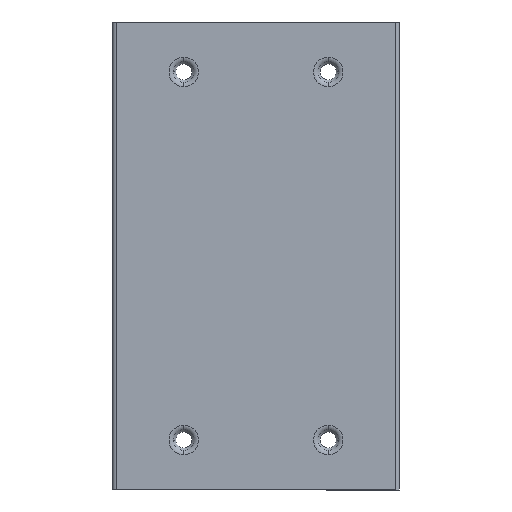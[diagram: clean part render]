
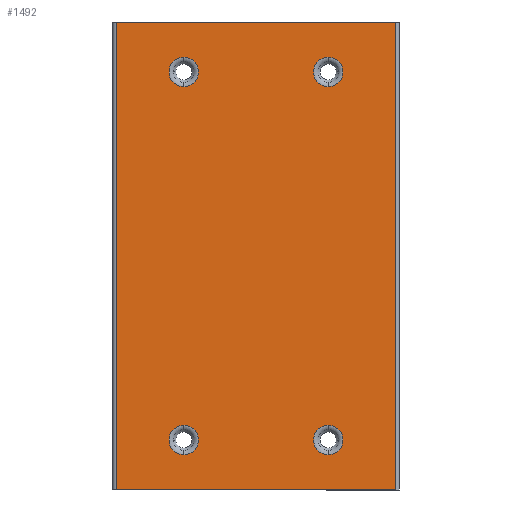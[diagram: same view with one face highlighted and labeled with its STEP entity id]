
A CAD part, front view. The second image highlights one B-rep face of the part: STEP entity #1492.
In plain terms, the highlighted planar face has unit normal (0, -1, 0).
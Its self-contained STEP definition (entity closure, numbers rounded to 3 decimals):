
#2 = VECTOR ( 'NONE', #2551, 1000. ) ;
#16 = AXIS2_PLACEMENT_3D ( 'NONE', #2356, #2397, #2396 ) ;
#30 = AXIS2_PLACEMENT_3D ( 'NONE', #2431, #2432, #2460 ) ;
#40 = AXIS2_PLACEMENT_3D ( 'NONE', #2552, #2553, #2554 ) ;
#77 = AXIS2_PLACEMENT_3D ( 'NONE', #763, #1101, #954 ) ;
#78 = AXIS2_PLACEMENT_3D ( 'NONE', #2480, #2481, #2493 ) ;
#81 = CIRCLE ( 'NONE', #78, 10.157 ) ;
#127 = CIRCLE ( 'NONE', #40, 10.157 ) ;
#137 = CIRCLE ( 'NONE', #238, 10.157 ) ;
#157 = AXIS2_PLACEMENT_3D ( 'NONE', #2324, #2344, #2395 ) ;
#173 = CIRCLE ( 'NONE', #77, 10.157 ) ;
#175 = AXIS2_PLACEMENT_3D ( 'NONE', #2456, #2457, #2490 ) ;
#182 = VECTOR ( 'NONE', #2556, 1000. ) ;
#186 = VECTOR ( 'NONE', #2387, 1000. ) ;
#187 = CIRCLE ( 'NONE', #175, 10.157 ) ;
#206 = VECTOR ( 'NONE', #2498, 1000. ) ;
#210 = CIRCLE ( 'NONE', #30, 10.157 ) ;
#218 = CIRCLE ( 'NONE', #157, 10.157 ) ;
#238 = AXIS2_PLACEMENT_3D ( 'NONE', #2297, #2225, #2515 ) ;
#239 = CIRCLE ( 'NONE', #16, 10.157 ) ;
#286 = EDGE_CURVE ( 'NONE', #2217, #2317, #2415, .T. ) ;
#289 = EDGE_CURVE ( 'NONE', #1439, #1434, #210, .T. ) ;
#294 = EDGE_CURVE ( 'NONE', #1407, #1429, #127, .T. ) ;
#301 = EDGE_CURVE ( 'NONE', #2353, #2269, #187, .T. ) ;
#303 = EDGE_CURVE ( 'NONE', #2510, #2217, #2455, .T. ) ;
#305 = EDGE_CURVE ( 'NONE', #2510, #2321, #2496, .T. ) ;
#318 = EDGE_CURVE ( 'NONE', #2321, #2317, #2447, .T. ) ;
#319 = EDGE_CURVE ( 'NONE', #2269, #2353, #81, .T. ) ;
#321 = EDGE_CURVE ( 'NONE', #1434, #1439, #218, .T. ) ;
#324 = EDGE_CURVE ( 'NONE', #1461, #1460, #239, .T. ) ;
#329 = EDGE_CURVE ( 'NONE', #1460, #1461, #137, .T. ) ;
#488 = CARTESIAN_POINT ( 'NONE',  ( 96.5, 0., 161.5 ) ) ;
#570 = EDGE_CURVE ( 'NONE', #1429, #1407, #173, .T. ) ;
#751 = EDGE_LOOP ( 'NONE', ( #1344, #1342 ) ) ;
#753 = EDGE_LOOP ( 'NONE', ( #1330, #1351 ) ) ;
#763 = CARTESIAN_POINT ( 'NONE',  ( -49.88, 0., -127. ) ) ;
#869 = EDGE_LOOP ( 'NONE', ( #1365, #1363, #1339, #1364 ) ) ;
#881 = EDGE_LOOP ( 'NONE', ( #1353, #1331 ) ) ;
#889 = EDGE_LOOP ( 'NONE', ( #1352, #1153 ) ) ;
#954 = DIRECTION ( 'NONE',  ( 0., 0., 1. ) ) ;
#1101 = DIRECTION ( 'NONE',  ( 0., 1., 0. ) ) ;
#1153 = ORIENTED_EDGE ( 'NONE', *, *, #294, .T. ) ;
#1330 = ORIENTED_EDGE ( 'NONE', *, *, #324, .F. ) ;
#1331 = ORIENTED_EDGE ( 'NONE', *, *, #321, .T. ) ;
#1339 = ORIENTED_EDGE ( 'NONE', *, *, #303, .F. ) ;
#1342 = ORIENTED_EDGE ( 'NONE', *, *, #319, .F. ) ;
#1344 = ORIENTED_EDGE ( 'NONE', *, *, #301, .F. ) ;
#1351 = ORIENTED_EDGE ( 'NONE', *, *, #329, .F. ) ;
#1352 = ORIENTED_EDGE ( 'NONE', *, *, #570, .T. ) ;
#1353 = ORIENTED_EDGE ( 'NONE', *, *, #289, .T. ) ;
#1363 = ORIENTED_EDGE ( 'NONE', *, *, #286, .F. ) ;
#1364 = ORIENTED_EDGE ( 'NONE', *, *, #305, .T. ) ;
#1365 = ORIENTED_EDGE ( 'NONE', *, *, #318, .T. ) ;
#1407 = VERTEX_POINT ( 'NONE', #1791 ) ;
#1429 = VERTEX_POINT ( 'NONE', #1881 ) ;
#1434 = VERTEX_POINT ( 'NONE', #1877 ) ;
#1439 = VERTEX_POINT ( 'NONE', #1872 ) ;
#1460 = VERTEX_POINT ( 'NONE', #1786 ) ;
#1461 = VERTEX_POINT ( 'NONE', #1730 ) ;
#1492 = ADVANCED_FACE ( 'NONE', ( #1810, #1813, #1817, #1814, #1720 ), #1742, .F. ) ;
#1679 = AXIS2_PLACEMENT_3D ( 'NONE', #1804, #1750, #1753 ) ;
#1720 = FACE_OUTER_BOUND ( 'NONE', #869, .T. ) ;
#1730 = CARTESIAN_POINT ( 'NONE',  ( 49.88, 0., -116.843 ) ) ;
#1742 = PLANE ( 'NONE',  #1679 ) ;
#1750 = DIRECTION ( 'NONE',  ( 0., 1., 0. ) ) ;
#1753 = DIRECTION ( 'NONE',  ( 0., 0., 1. ) ) ;
#1786 = CARTESIAN_POINT ( 'NONE',  ( 49.88, 0., -137.157 ) ) ;
#1791 = CARTESIAN_POINT ( 'NONE',  ( -49.88, 0., -137.157 ) ) ;
#1804 = CARTESIAN_POINT ( 'NONE',  ( -99., 0., 161.5 ) ) ;
#1810 = FACE_BOUND ( 'NONE', #889, .T. ) ;
#1813 = FACE_BOUND ( 'NONE', #881, .T. ) ;
#1814 = FACE_BOUND ( 'NONE', #751, .T. ) ;
#1817 = FACE_BOUND ( 'NONE', #753, .T. ) ;
#1872 = CARTESIAN_POINT ( 'NONE',  ( -49.88, 0., 137.157 ) ) ;
#1877 = CARTESIAN_POINT ( 'NONE',  ( -49.88, 0., 116.843 ) ) ;
#1881 = CARTESIAN_POINT ( 'NONE',  ( -49.88, 0., -116.843 ) ) ;
#1955 = CARTESIAN_POINT ( 'NONE',  ( 96.5, 0., -161.5 ) ) ;
#1970 = CARTESIAN_POINT ( 'NONE',  ( 49.88, 0., 116.843 ) ) ;
#2043 = CARTESIAN_POINT ( 'NONE',  ( 49.88, 0., 137.157 ) ) ;
#2045 = CARTESIAN_POINT ( 'NONE',  ( -96.5, 0., -161.5 ) ) ;
#2055 = CARTESIAN_POINT ( 'NONE',  ( -96.5, 0., 161.5 ) ) ;
#2217 = VERTEX_POINT ( 'NONE', #488 ) ;
#2225 = DIRECTION ( 'NONE',  ( 0., -1., 0. ) ) ;
#2269 = VERTEX_POINT ( 'NONE', #1970 ) ;
#2297 = CARTESIAN_POINT ( 'NONE',  ( 49.88, 0., -127. ) ) ;
#2317 = VERTEX_POINT ( 'NONE', #1955 ) ;
#2321 = VERTEX_POINT ( 'NONE', #2045 ) ;
#2324 = CARTESIAN_POINT ( 'NONE',  ( -49.88, 0., 127. ) ) ;
#2344 = DIRECTION ( 'NONE',  ( 0., 1., 0. ) ) ;
#2353 = VERTEX_POINT ( 'NONE', #2043 ) ;
#2356 = CARTESIAN_POINT ( 'NONE',  ( 49.88, 0., -127. ) ) ;
#2379 = CARTESIAN_POINT ( 'NONE',  ( 96.5, 0., 161.5 ) ) ;
#2387 = DIRECTION ( 'NONE',  ( 1., 0., 0. ) ) ;
#2390 = CARTESIAN_POINT ( 'NONE',  ( -99., 0., 161.5 ) ) ;
#2395 = DIRECTION ( 'NONE',  ( 0., 0., 1. ) ) ;
#2396 = DIRECTION ( 'NONE',  ( 0., 0., 1. ) ) ;
#2397 = DIRECTION ( 'NONE',  ( 0., -1., 0. ) ) ;
#2415 = LINE ( 'NONE', #2379, #2 ) ;
#2431 = CARTESIAN_POINT ( 'NONE',  ( -49.88, 0., 127. ) ) ;
#2432 = DIRECTION ( 'NONE',  ( 0., 1., 0. ) ) ;
#2447 = LINE ( 'NONE', #2555, #182 ) ;
#2455 = LINE ( 'NONE', #2390, #186 ) ;
#2456 = CARTESIAN_POINT ( 'NONE',  ( 49.88, 0., 127. ) ) ;
#2457 = DIRECTION ( 'NONE',  ( 0., -1., 0. ) ) ;
#2460 = DIRECTION ( 'NONE',  ( 0., 0., 1. ) ) ;
#2480 = CARTESIAN_POINT ( 'NONE',  ( 49.88, 0., 127. ) ) ;
#2481 = DIRECTION ( 'NONE',  ( 0., -1., 0. ) ) ;
#2490 = DIRECTION ( 'NONE',  ( 0., 0., 1. ) ) ;
#2493 = DIRECTION ( 'NONE',  ( 0., 0., 1. ) ) ;
#2496 = LINE ( 'NONE', #2497, #206 ) ;
#2497 = CARTESIAN_POINT ( 'NONE',  ( -96.5, 0., 161.5 ) ) ;
#2498 = DIRECTION ( 'NONE',  ( 0., 0., -1. ) ) ;
#2510 = VERTEX_POINT ( 'NONE', #2055 ) ;
#2515 = DIRECTION ( 'NONE',  ( 0., 0., 1. ) ) ;
#2551 = DIRECTION ( 'NONE',  ( 0., 0., -1. ) ) ;
#2552 = CARTESIAN_POINT ( 'NONE',  ( -49.88, 0., -127. ) ) ;
#2553 = DIRECTION ( 'NONE',  ( 0., 1., 0. ) ) ;
#2554 = DIRECTION ( 'NONE',  ( 0., 0., 1. ) ) ;
#2555 = CARTESIAN_POINT ( 'NONE',  ( -99., 0., -161.5 ) ) ;
#2556 = DIRECTION ( 'NONE',  ( 1., 0., 0. ) ) ;
